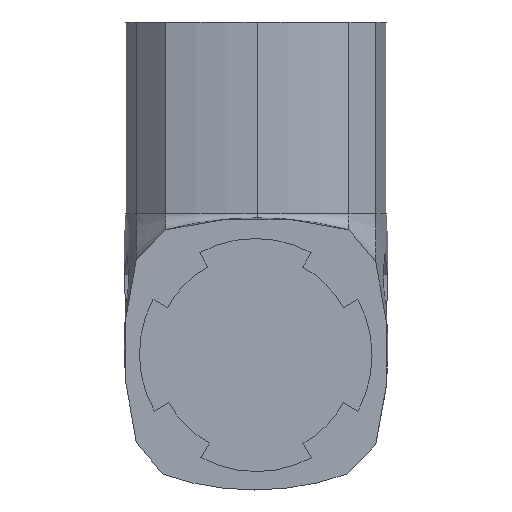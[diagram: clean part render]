
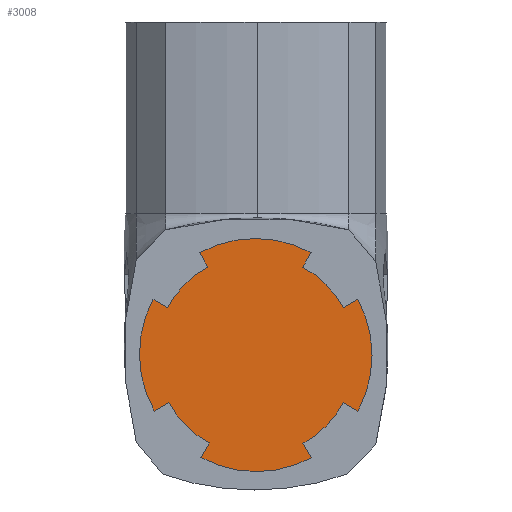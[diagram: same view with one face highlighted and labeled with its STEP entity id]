
A CAD part, left-side view. The second image highlights one B-rep face of the part: STEP entity #3008.
In plain terms, the highlighted planar face has unit normal (-1, 0, 0).
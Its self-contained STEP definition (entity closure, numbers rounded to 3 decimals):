
#47 = CIRCLE ( 'NONE', #1393, 14. ) ;
#69 = PLANE ( 'NONE',  #762 ) ;
#110 = CARTESIAN_POINT ( 'NONE',  ( -33.853, 12.215, -22.724 ) ) ;
#134 = VERTEX_POINT ( 'NONE', #938 ) ;
#156 = VERTEX_POINT ( 'NONE', #4106 ) ;
#293 = VERTEX_POINT ( 'NONE', #791 ) ;
#294 = LINE ( 'NONE', #1401, #3809 ) ;
#306 = CARTESIAN_POINT ( 'NONE',  ( -33.853, 1.884, -17.033 ) ) ;
#329 = EDGE_CURVE ( 'NONE', #156, #1968, #557, .T. ) ;
#408 = VECTOR ( 'NONE', #3818, 1000. ) ;
#411 = DIRECTION ( 'NONE',  ( 0., 0., 1. ) ) ;
#429 = ORIENTED_EDGE ( 'NONE', *, *, #1160, .T. ) ;
#469 = CARTESIAN_POINT ( 'NONE',  ( -33.853, 8.368, -29.285 ) ) ;
#542 = LINE ( 'NONE', #1571, #4068 ) ;
#557 = LINE ( 'NONE', #4309, #667 ) ;
#561 = EDGE_LOOP ( 'NONE', ( #4401, #429, #3086, #4513, #3836, #1316, #4373, #3395, #2276, #2916, #2392, #1124, #2963, #647, #2197, #4488, #2540 ) ) ;
#585 = CARTESIAN_POINT ( 'NONE',  ( -33.853, 1.747, -16.859 ) ) ;
#640 = VECTOR ( 'NONE', #2368, 1000. ) ;
#647 = ORIENTED_EDGE ( 'NONE', *, *, #1484, .T. ) ;
#663 = DIRECTION ( 'NONE',  ( 0., 0., 1. ) ) ;
#667 = VECTOR ( 'NONE', #3276, 1000. ) ;
#670 = VERTEX_POINT ( 'NONE', #469 ) ;
#710 = DIRECTION ( 'NONE',  ( -1., 0., 0. ) ) ;
#725 = VECTOR ( 'NONE', #3303, 1000. ) ;
#759 = VERTEX_POINT ( 'NONE', #4033 ) ;
#760 = CARTESIAN_POINT ( 'NONE',  ( -33.853, 13.948, -23.724 ) ) ;
#762 = AXIS2_PLACEMENT_3D ( 'NONE', #3578, #2528, #411 ) ;
#791 = CARTESIAN_POINT ( 'NONE',  ( -33.853, 1.822, -2.999 ) ) ;
#838 = EDGE_CURVE ( 'NONE', #2183, #1062, #1266, .T. ) ;
#855 = AXIS2_PLACEMENT_3D ( 'NONE', #2826, #710, #3181 ) ;
#938 = CARTESIAN_POINT ( 'NONE',  ( -33.853, 7.368, -27.552 ) ) ;
#947 = DIRECTION ( 'NONE',  ( 0., 0., 1. ) ) ;
#971 = VERTEX_POINT ( 'NONE', #2460 ) ;
#978 = DIRECTION ( 'NONE',  ( -1., 0., 0. ) ) ;
#1003 = CIRCLE ( 'NONE', #855, 12. ) ;
#1062 = VERTEX_POINT ( 'NONE', #1091 ) ;
#1074 = EDGE_CURVE ( 'NONE', #1587, #293, #47, .T. ) ;
#1091 = CARTESIAN_POINT ( 'NONE',  ( -33.853, -3.872, -6.436 ) ) ;
#1124 = ORIENTED_EDGE ( 'NONE', *, *, #2665, .T. ) ;
#1137 = DIRECTION ( 'NONE',  ( 0., 0., 1. ) ) ;
#1160 = EDGE_CURVE ( 'NONE', #2879, #4284, #1577, .T. ) ;
#1197 = CIRCLE ( 'NONE', #1520, 13.95 ) ;
#1262 = CARTESIAN_POINT ( 'NONE',  ( -33.853, -4.872, -4.704 ) ) ;
#1266 = CIRCLE ( 'NONE', #2671, 12. ) ;
#1273 = CARTESIAN_POINT ( 'NONE',  ( -33.853, -8.741, -11.306 ) ) ;
#1316 = ORIENTED_EDGE ( 'NONE', *, *, #329, .T. ) ;
#1335 = DIRECTION ( 'NONE',  ( 0., -0.5, 0.866 ) ) ;
#1372 = VERTEX_POINT ( 'NONE', #4256 ) ;
#1391 = EDGE_CURVE ( 'NONE', #1968, #971, #2688, .T. ) ;
#1393 = AXIS2_PLACEMENT_3D ( 'NONE', #3932, #1825, #4273 ) ;
#1395 = EDGE_CURVE ( 'NONE', #759, #3382, #2580, .T. ) ;
#1401 = CARTESIAN_POINT ( 'NONE',  ( -33.853, -8.759, -22.727 ) ) ;
#1451 = CIRCLE ( 'NONE', #3766, 14.07 ) ;
#1458 = CARTESIAN_POINT ( 'NONE',  ( -33.853, 1.804, -17.033 ) ) ;
#1484 = EDGE_CURVE ( 'NONE', #293, #759, #4110, .T. ) ;
#1499 = FACE_OUTER_BOUND ( 'NONE', #561, .T. ) ;
#1520 = AXIS2_PLACEMENT_3D ( 'NONE', #3732, #1614, #4081 ) ;
#1524 = CARTESIAN_POINT ( 'NONE',  ( -33.853, 14.118, -10.305 ) ) ;
#1544 = CIRCLE ( 'NONE', #4363, 11.844 ) ;
#1571 = CARTESIAN_POINT ( 'NONE',  ( -33.853, 7.368, -27.552 ) ) ;
#1572 = EDGE_CURVE ( 'NONE', #670, #156, #1197, .T. ) ;
#1577 = LINE ( 'NONE', #4484, #640 ) ;
#1587 = VERTEX_POINT ( 'NONE', #1262 ) ;
#1614 = DIRECTION ( 'NONE',  ( -1., 0., 0. ) ) ;
#1629 = VECTOR ( 'NONE', #2158, 1000. ) ;
#1639 = AXIS2_PLACEMENT_3D ( 'NONE', #585, #3059, #947 ) ;
#1768 = VERTEX_POINT ( 'NONE', #4526 ) ;
#1825 = DIRECTION ( 'NONE',  ( -1., 0., 0. ) ) ;
#1828 = DIRECTION ( 'NONE',  ( 0., 0., 1. ) ) ;
#1880 = DIRECTION ( 'NONE',  ( -1., 0., 0. ) ) ;
#1968 = VERTEX_POINT ( 'NONE', #3654 ) ;
#1971 = VERTEX_POINT ( 'NONE', #1524 ) ;
#2036 = CARTESIAN_POINT ( 'NONE',  ( -33.853, 1.822, -16.999 ) ) ;
#2158 = DIRECTION ( 'NONE',  ( 0., -0.5, -0.866 ) ) ;
#2183 = VERTEX_POINT ( 'NONE', #1273 ) ;
#2197 = ORIENTED_EDGE ( 'NONE', *, *, #1395, .T. ) ;
#2276 = ORIENTED_EDGE ( 'NONE', *, *, #2695, .T. ) ;
#2286 = LINE ( 'NONE', #2418, #408 ) ;
#2368 = DIRECTION ( 'NONE',  ( 0., -0.866, 0.5 ) ) ;
#2380 = DIRECTION ( 'NONE',  ( 0., 0., 1. ) ) ;
#2392 = ORIENTED_EDGE ( 'NONE', *, *, #838, .T. ) ;
#2418 = CARTESIAN_POINT ( 'NONE',  ( -33.853, 12.385, -11.306 ) ) ;
#2460 = CARTESIAN_POINT ( 'NONE',  ( -33.853, -8.759, -22.727 ) ) ;
#2495 = AXIS2_PLACEMENT_3D ( 'NONE', #1458, #3937, #1828 ) ;
#2513 = CARTESIAN_POINT ( 'NONE',  ( -33.853, 8.516, -4.704 ) ) ;
#2528 = DIRECTION ( 'NONE',  ( -1., 0., 0. ) ) ;
#2540 = ORIENTED_EDGE ( 'NONE', *, *, #2703, .T. ) ;
#2580 = LINE ( 'NONE', #2513, #1629 ) ;
#2586 = EDGE_CURVE ( 'NONE', #1971, #2879, #3679, .T. ) ;
#2594 = CARTESIAN_POINT ( 'NONE',  ( -33.853, -10.474, -10.305 ) ) ;
#2665 = EDGE_CURVE ( 'NONE', #1062, #1587, #3339, .T. ) ;
#2671 = AXIS2_PLACEMENT_3D ( 'NONE', #2036, #4495, #2380 ) ;
#2688 = CIRCLE ( 'NONE', #2495, 12. ) ;
#2695 = EDGE_CURVE ( 'NONE', #3669, #1372, #1451, .T. ) ;
#2703 = EDGE_CURVE ( 'NONE', #1768, #1971, #2286, .T. ) ;
#2755 = EDGE_CURVE ( 'NONE', #971, #3669, #294, .T. ) ;
#2757 = EDGE_CURVE ( 'NONE', #3382, #1768, #1003, .T. ) ;
#2777 = DIRECTION ( 'NONE',  ( -1., 0., 0. ) ) ;
#2804 = CARTESIAN_POINT ( 'NONE',  ( -33.853, 7.516, -6.436 ) ) ;
#2826 = CARTESIAN_POINT ( 'NONE',  ( -33.853, 1.822, -16.999 ) ) ;
#2879 = VERTEX_POINT ( 'NONE', #760 ) ;
#2916 = ORIENTED_EDGE ( 'NONE', *, *, #3104, .T. ) ;
#2963 = ORIENTED_EDGE ( 'NONE', *, *, #1074, .T. ) ;
#3008 = ADVANCED_FACE ( 'NONE', ( #1499 ), #69, .T. ) ;
#3059 = DIRECTION ( 'NONE',  ( -1., 0., 0. ) ) ;
#3086 = ORIENTED_EDGE ( 'NONE', *, *, #3690, .T. ) ;
#3091 = CARTESIAN_POINT ( 'NONE',  ( -33.853, 1.789, -17.104 ) ) ;
#3104 = EDGE_CURVE ( 'NONE', #1372, #2183, #3542, .T. ) ;
#3181 = DIRECTION ( 'NONE',  ( 0., 0., 1. ) ) ;
#3276 = DIRECTION ( 'NONE',  ( 0., 0.5, 0.866 ) ) ;
#3303 = DIRECTION ( 'NONE',  ( 0., 0.866, -0.5 ) ) ;
#3339 = LINE ( 'NONE', #3456, #4260 ) ;
#3382 = VERTEX_POINT ( 'NONE', #2804 ) ;
#3395 = ORIENTED_EDGE ( 'NONE', *, *, #2755, .T. ) ;
#3414 = CARTESIAN_POINT ( 'NONE',  ( -33.853, -10.492, -23.727 ) ) ;
#3447 = DIRECTION ( 'NONE',  ( 0., 0., 1. ) ) ;
#3456 = CARTESIAN_POINT ( 'NONE',  ( -33.853, -3.872, -6.436 ) ) ;
#3542 = LINE ( 'NONE', #2594, #725 ) ;
#3578 = CARTESIAN_POINT ( 'NONE',  ( -33.853, 1.747, -16.859 ) ) ;
#3654 = CARTESIAN_POINT ( 'NONE',  ( -33.853, -3.89, -27.596 ) ) ;
#3669 = VERTEX_POINT ( 'NONE', #3414 ) ;
#3679 = CIRCLE ( 'NONE', #1639, 14. ) ;
#3690 = EDGE_CURVE ( 'NONE', #4284, #134, #1544, .T. ) ;
#3732 = CARTESIAN_POINT ( 'NONE',  ( -33.853, 1.698, -17.033 ) ) ;
#3766 = AXIS2_PLACEMENT_3D ( 'NONE', #306, #2777, #663 ) ;
#3809 = VECTOR ( 'NONE', #4215, 1000. ) ;
#3818 = DIRECTION ( 'NONE',  ( 0., 0.866, 0.5 ) ) ;
#3836 = ORIENTED_EDGE ( 'NONE', *, *, #1572, .T. ) ;
#3932 = CARTESIAN_POINT ( 'NONE',  ( -33.853, 1.822, -16.999 ) ) ;
#3937 = DIRECTION ( 'NONE',  ( -1., 0., 0. ) ) ;
#3984 = CARTESIAN_POINT ( 'NONE',  ( -33.853, 1.822, -16.999 ) ) ;
#4033 = CARTESIAN_POINT ( 'NONE',  ( -33.853, 8.516, -4.704 ) ) ;
#4068 = VECTOR ( 'NONE', #4396, 1000. ) ;
#4081 = DIRECTION ( 'NONE',  ( 0., 0., 1. ) ) ;
#4106 = CARTESIAN_POINT ( 'NONE',  ( -33.853, -4.89, -29.329 ) ) ;
#4110 = CIRCLE ( 'NONE', #4138, 14. ) ;
#4138 = AXIS2_PLACEMENT_3D ( 'NONE', #3984, #1880, #1137 ) ;
#4215 = DIRECTION ( 'NONE',  ( 0., -0.866, -0.5 ) ) ;
#4256 = CARTESIAN_POINT ( 'NONE',  ( -33.853, -10.474, -10.305 ) ) ;
#4260 = VECTOR ( 'NONE', #1335, 1000. ) ;
#4273 = DIRECTION ( 'NONE',  ( 0., 0., 1. ) ) ;
#4284 = VERTEX_POINT ( 'NONE', #110 ) ;
#4309 = CARTESIAN_POINT ( 'NONE',  ( -33.853, -4.89, -29.329 ) ) ;
#4363 = AXIS2_PLACEMENT_3D ( 'NONE', #3091, #978, #3447 ) ;
#4373 = ORIENTED_EDGE ( 'NONE', *, *, #1391, .T. ) ;
#4396 = DIRECTION ( 'NONE',  ( 0., 0.5, -0.866 ) ) ;
#4401 = ORIENTED_EDGE ( 'NONE', *, *, #2586, .T. ) ;
#4484 = CARTESIAN_POINT ( 'NONE',  ( -33.853, 13.948, -23.724 ) ) ;
#4488 = ORIENTED_EDGE ( 'NONE', *, *, #2757, .T. ) ;
#4495 = DIRECTION ( 'NONE',  ( -1., 0., 0. ) ) ;
#4513 = ORIENTED_EDGE ( 'NONE', *, *, #4554, .T. ) ;
#4526 = CARTESIAN_POINT ( 'NONE',  ( -33.853, 12.385, -11.306 ) ) ;
#4554 = EDGE_CURVE ( 'NONE', #134, #670, #542, .T. ) ;
